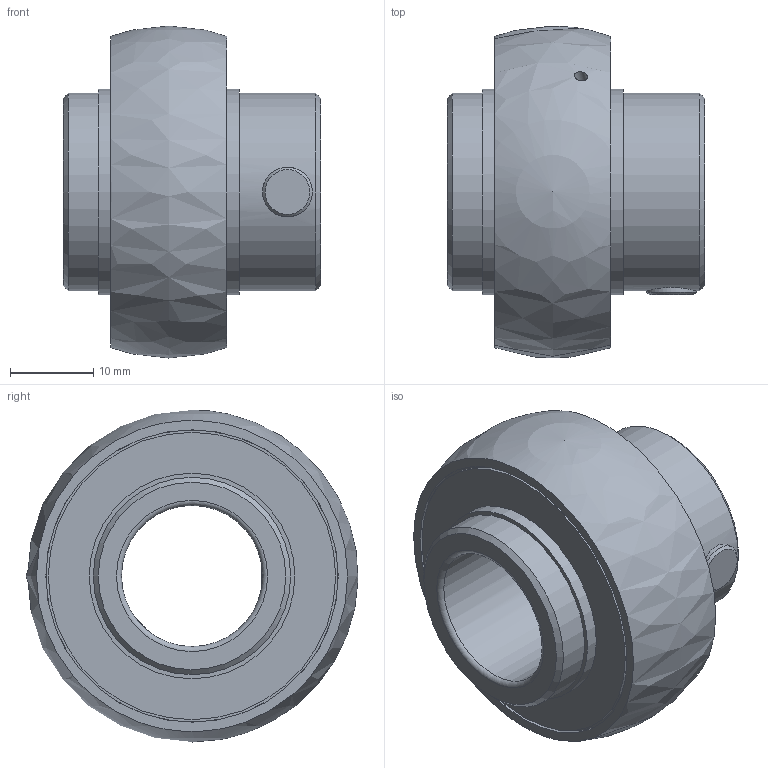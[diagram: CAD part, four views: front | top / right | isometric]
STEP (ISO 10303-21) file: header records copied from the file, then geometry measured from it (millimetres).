
FILE_DESCRIPTION(/* description */ (''),/* implementation_level */ '2;1');
FILE_NAME(/* name */ 'D:\moje\parametrické\uc2--\UC2--_\UC203.stp',/* time_stamp */ '2016-09-21T07:59:18+02:00',/* author */ ('OUBALASKO'),/* organization */ (''),/* preprocessor_version */ 'ST-DEVELOPER v15.6',/* originating_system */ 'Autodesk Inventor 2015',/* authorisation */ '');
FILE_SCHEMA (('AUTOMOTIVE_DESIGN { 1 0 10303 214 3 1 1 }'));
Length unit declared in the file: millimetre
Products named in the file (8): UC203-02; UC203-ball; UC203-01; UC203-cage; UC203-seal; M6X4; UC203-shield; UC203
Assembly tree (18 placements, depth 2):
  UC203
    UC203-02
    UC203-ball  x8
    UC203-01
    UC203-cage  x2
    UC203-seal  x2
    M6X4  x2
    UC203-shield  x2
Bounding box: 31 x 39.99 x 40 mm (x, y, z)
Volume: 13842.4 mm3; surface area: 15906.4 mm2
Topology: 18 solids, 18 shells, 130 faces, 416 edges, 273 vertices
Faces by surface type: plane 52, sphere 41, cylinder 27, cone 6, torus 4
Full cylindrical faces by diameter (mm): 1.5 x2, 6 x4, 17 x1, 23.777 x6, 24.777 x2, 26.476 x2, 30.524 x2, 33.223 x2, 34.623 x2, 35.223 x4
Entity records: 3120 total; most frequent: CARTESIAN_POINT 1283, DIRECTION 398, ORIENTED_EDGE 278, AXIS2_PLACEMENT_3D 199, EDGE_CURVE 139, EDGE_LOOP 121, VERTEX_POINT 108, CIRCLE 99
